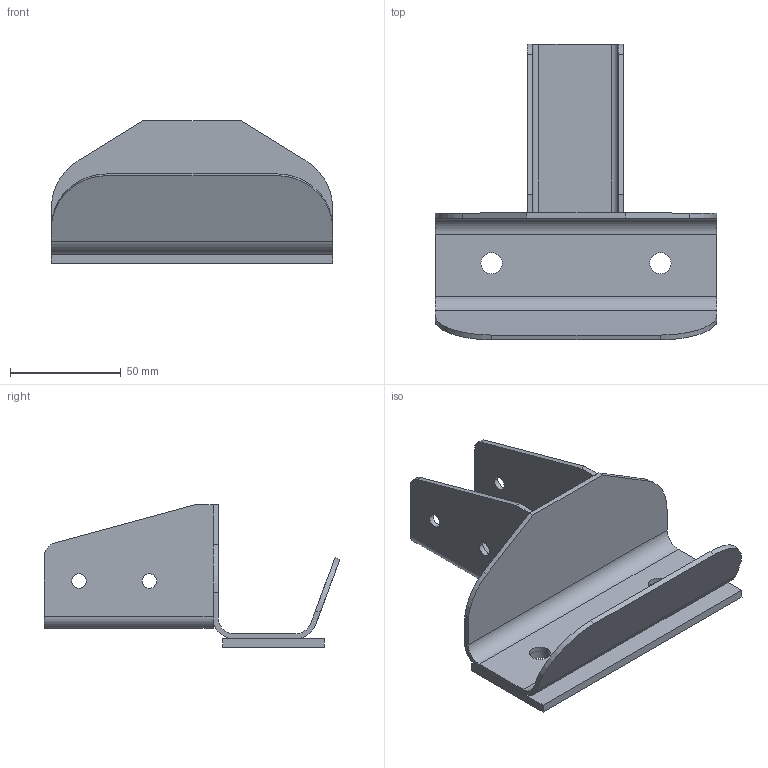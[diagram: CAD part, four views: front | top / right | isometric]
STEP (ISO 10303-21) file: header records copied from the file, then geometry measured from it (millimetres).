
FILE_DESCRIPTION( ( 'STEP AP214' ), '1' );
FILE_NAME( ' ', ' ', ( 'Siemens PLM Software, Inc.' ), ( 'Siemens PLM Software, Inc.' ), 'PSStep 13.0', 'FEMAP', ' ' );
FILE_SCHEMA( ( 'AUTOMOTIVE_DESIGN { 1 0 10303 214 1 1 1 1 }' ) );
Length unit declared in the file: metre
Products named in the file (4): Assem1; 1; 2; 3
Bounding box: 127 x 133.41 x 64.26 mm (x, y, z)
Volume: 158511.5 mm3; surface area: 131272.1 mm2
Topology: 6 solids, 6 shells, 120 faces, 324 edges, 216 vertices
Faces by surface type: plane 60, cylinder 60
Entity records: 2472 total; most frequent: DIRECTION 350, CARTESIAN_POINT 334, ORIENTED_EDGE 324, EDGE_CURVE 162, AXIS2_PLACEMENT_3D 124, VERTEX_POINT 108, LINE 102, VECTOR 102
